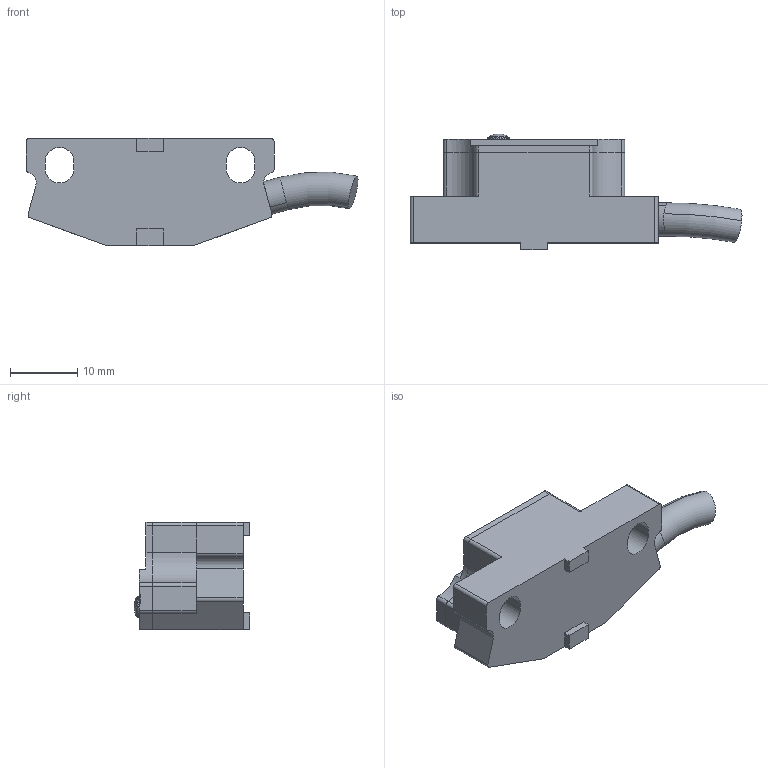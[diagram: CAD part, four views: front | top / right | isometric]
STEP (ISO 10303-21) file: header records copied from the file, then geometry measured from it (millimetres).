
FILE_DESCRIPTION (( 'STEP AP214' ), '1' );
FILE_NAME ('SE31_readhead_1_cab_right.step', '2021-03-12T13:21:50', ( '' ), ( '' ), 'SwSTEP 2.0', 'SolidWorks 2020', '' );
FILE_SCHEMA (( 'AUTOMOTIVE_DESIGN' ));
Length unit declared in the file: millimetre
Products named in the file (1): SE31_readhead_1_cab_right
Bounding box: 49.52 x 17.25 x 16 mm (x, y, z)
Surface area: 3475.2 mm2 (no closed solid volume)
Topology: 0 solids, 7 shells, 143 faces, 467 edges, 325 vertices
Faces by surface type: plane 87, cylinder 36, cone 10, bspline 8, torus 2
Entity records: 7533 total; most frequent: CARTESIAN_POINT 1855, DIRECTION 830, ORIENTED_EDGE 812, EDGE_CURVE 465, VERTEX_POINT 325, VECTOR 314, LINE 314, AXIS2_PLACEMENT_3D 258
